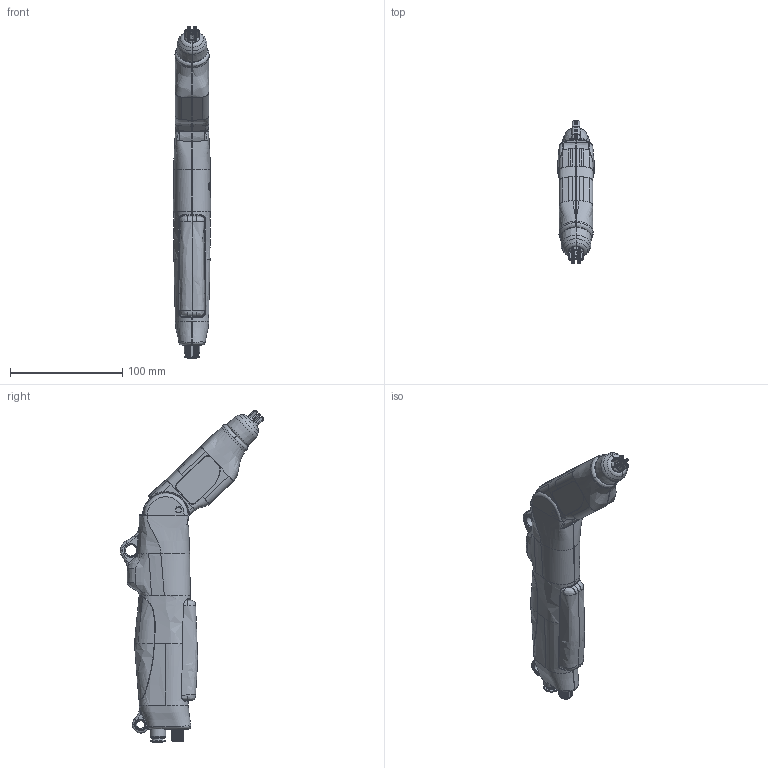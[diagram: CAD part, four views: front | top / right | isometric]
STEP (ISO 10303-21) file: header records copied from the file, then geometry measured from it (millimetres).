
FILE_DESCRIPTION (( 'STEP AP214' ), '1' );
FILE_NAME ('CleanflexEasy_Bend2_3D_GB.STEP', '2021-07-21T07:57:40', ( '' ), ( '' ), 'SwSTEP 2.0', 'SolidWorks 2021', '' );
FILE_SCHEMA (( 'AUTOMOTIVE_DESIGN' ));
Length unit declared in the file: millimetre
Products named in the file (1): CleanflexEasy_Bend2_3D_GB
Bounding box: 33.11 x 127.99 x 296.27 mm (x, y, z)
Surface area: 54296.5 mm2 (no closed solid volume)
Topology: 0 solids, 47 shells, 735 faces, 2685 edges, 1932 vertices
Faces by surface type: bspline 226, cylinder 197, plane 149, torus 85, cone 68, sphere 10
Entity records: 65977 total; most frequent: CARTESIAN_POINT 37951, ORIENTED_EDGE 4232, DIRECTION 3456, EDGE_CURVE 2673, VERTEX_POINT 1932, AXIS2_PLACEMENT_3D 1380, B_SPLINE_CURVE_WITH_KNOTS 1068, CIRCLE 870
